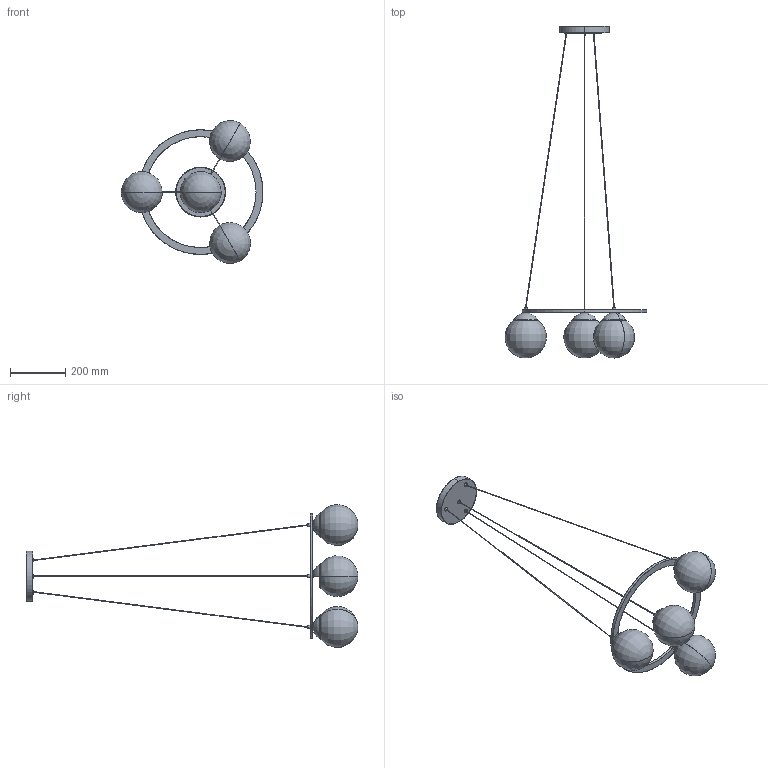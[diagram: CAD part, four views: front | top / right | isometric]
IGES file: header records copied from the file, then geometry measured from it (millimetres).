
Start section: SolidWorks IGES file using analytic representation for surfaces
Global section: file name: F:\燠隴矨\3D\2024-3堎\Nuura Miira Wood Chandelier-4heads.IGS; native system: SolidWorks 2022; preprocessor: SolidWorks 2022; author: MyPC; date: 240304.095127; units: millimetre
Bounding box: 512.09 x 1197.95 x 514.49 mm (x, y, z)
Surface area: 560764.7 mm2 (no closed solid volume)
Topology: 0 solids, 0 shells, 109 faces, 2336 edges, 2324 vertices
Faces by surface type: revolution 66, bspline 43
